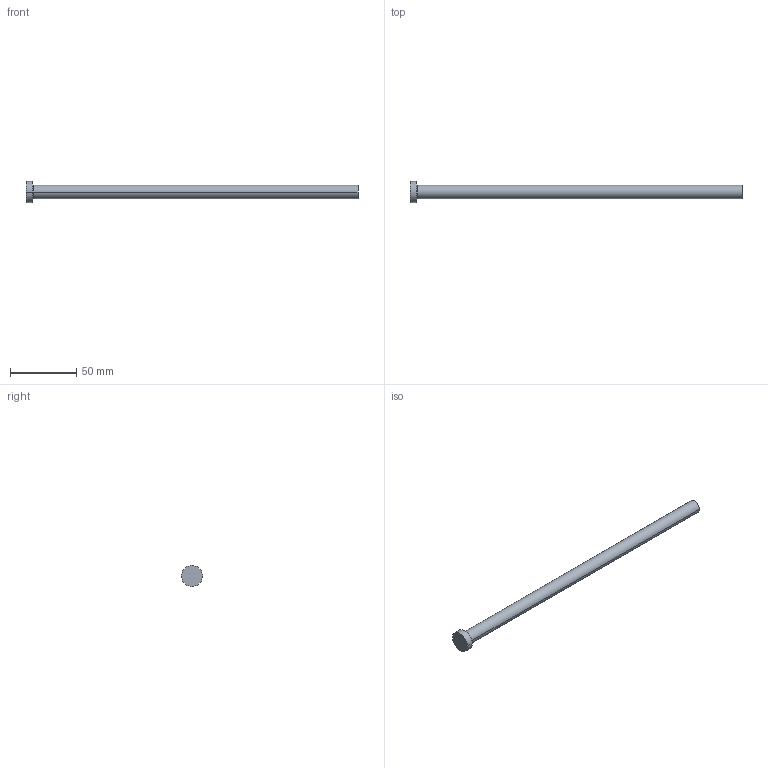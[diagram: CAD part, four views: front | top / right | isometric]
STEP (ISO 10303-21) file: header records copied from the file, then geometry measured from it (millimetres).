
FILE_DESCRIPTION (( 'STEP AP214' ), '1' );
FILE_NAME ('A-10,2x250.STEP', '2020-05-29T15:58:43', ( 'August' ), ( '' ), 'SwSTEP 2.0', 'SolidWorks 2018', '' );
FILE_SCHEMA (( 'AUTOMOTIVE_DESIGN' ));
Length unit declared in the file: millimetre
Products named in the file (1): A-10,2x250
Bounding box: 250 x 16 x 16 mm (x, y, z)
Volume: 21026.7 mm3; surface area: 8497.5 mm2
Topology: 1 solids, 1 shells, 9 faces, 16 edges, 10 vertices
Faces by surface type: cylinder 4, plane 3, torus 2
Entity records: 260 total; most frequent: DIRECTION 48, CARTESIAN_POINT 36, ORIENTED_EDGE 32, AXIS2_PLACEMENT_3D 22, EDGE_CURVE 16, CIRCLE 12, EDGE_LOOP 10, VERTEX_POINT 10
